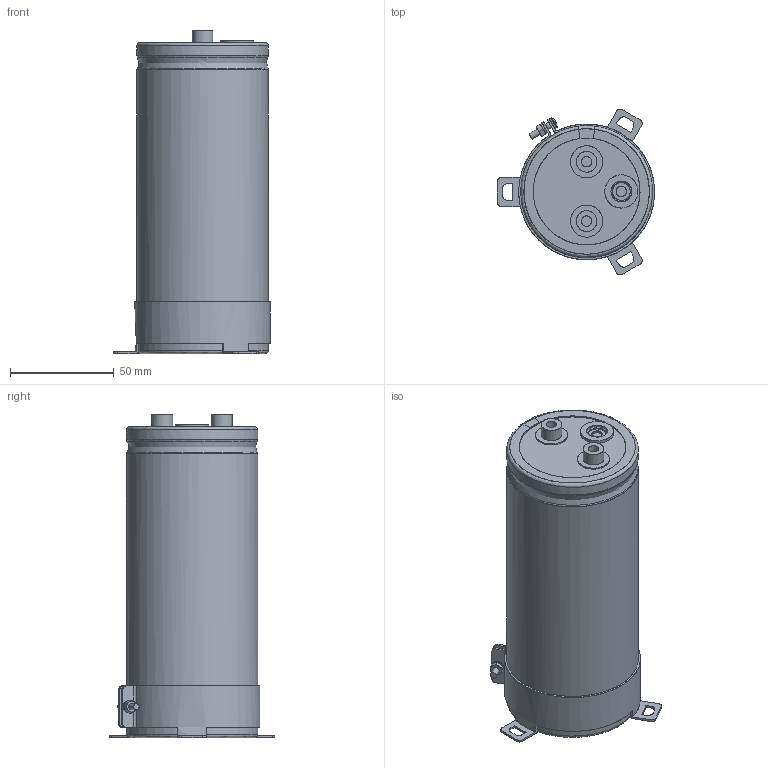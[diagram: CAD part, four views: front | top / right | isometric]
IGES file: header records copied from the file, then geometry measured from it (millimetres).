
Start section: JAMA-IS VERSION  1.0
Bounding box: 75.75 x 80.01 x 156 mm (x, y, z)
Surface area: 110711.6 mm2 (no closed solid volume)
Topology: 0 solids, 0 shells, 259 faces, 4436 edges, 4409 vertices
Faces by surface type: bspline 259
